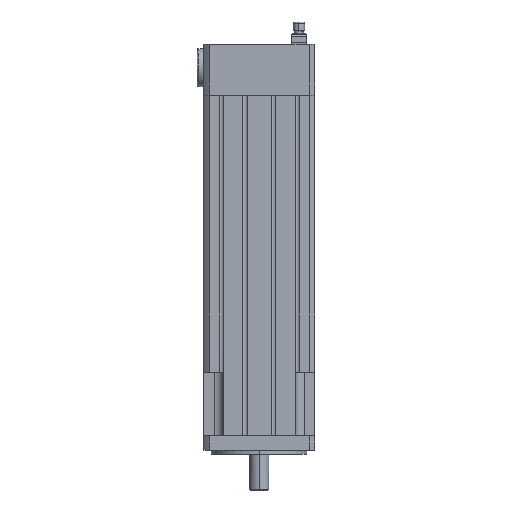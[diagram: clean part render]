
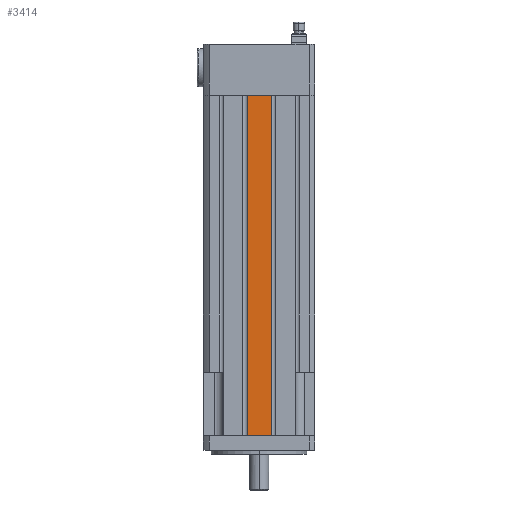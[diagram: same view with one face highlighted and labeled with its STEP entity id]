
A CAD part, left-side view. The second image highlights one B-rep face of the part: STEP entity #3414.
In plain terms, the highlighted planar face has unit normal (-1, 0, 0).
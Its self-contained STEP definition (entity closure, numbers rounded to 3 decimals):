
#652 = ORIENTED_EDGE ( 'NONE', *, *, #8682, .T. ) ;
#731 = VERTEX_POINT ( 'NONE', #12495 ) ;
#1012 = VERTEX_POINT ( 'NONE', #10043 ) ;
#1488 = DIRECTION ( 'NONE',  ( 0., 1., 0. ) ) ;
#1558 = CARTESIAN_POINT ( 'NONE',  ( -35., 7.547, 214. ) ) ;
#1682 = PLANE ( 'NONE',  #13375 ) ;
#1724 = DIRECTION ( 'NONE',  ( 0., -1., 0. ) ) ;
#1793 = LINE ( 'NONE', #10034, #7757 ) ;
#2017 = DIRECTION ( 'NONE',  ( 0., 0., -1. ) ) ;
#2330 = EDGE_CURVE ( 'NONE', #12482, #4863, #2908, .T. ) ;
#2619 = EDGE_CURVE ( 'NONE', #1012, #4863, #3823, .T. ) ;
#2654 = FACE_OUTER_BOUND ( 'NONE', #5404, .T. ) ;
#2908 = LINE ( 'NONE', #8104, #8492 ) ;
#3414 = ADVANCED_FACE ( 'NONE', ( #2654 ), #1682, .F. ) ;
#3595 = DIRECTION ( 'NONE',  ( 0., 0., -1. ) ) ;
#3823 = LINE ( 'NONE', #6728, #12664 ) ;
#4548 = DIRECTION ( 'NONE',  ( 1., 0., 0. ) ) ;
#4863 = VERTEX_POINT ( 'NONE', #10640 ) ;
#5215 = VECTOR ( 'NONE', #3595, 1000. ) ;
#5404 = EDGE_LOOP ( 'NONE', ( #7571, #6412, #6343, #652 ) ) ;
#6343 = ORIENTED_EDGE ( 'NONE', *, *, #7062, .F. ) ;
#6412 = ORIENTED_EDGE ( 'NONE', *, *, #2330, .F. ) ;
#6532 = CARTESIAN_POINT ( 'NONE',  ( -35., -7.547, 214. ) ) ;
#6728 = CARTESIAN_POINT ( 'NONE',  ( -35., -7.547, 0. ) ) ;
#7062 = EDGE_CURVE ( 'NONE', #731, #12482, #1793, .T. ) ;
#7505 = LINE ( 'NONE', #1558, #5215 ) ;
#7571 = ORIENTED_EDGE ( 'NONE', *, *, #2619, .T. ) ;
#7757 = VECTOR ( 'NONE', #12787, 1000. ) ;
#8104 = CARTESIAN_POINT ( 'NONE',  ( -35., -7.547, 214. ) ) ;
#8492 = VECTOR ( 'NONE', #2017, 1000. ) ;
#8682 = EDGE_CURVE ( 'NONE', #731, #1012, #7505, .T. ) ;
#9797 = CARTESIAN_POINT ( 'NONE',  ( -35., -7.547, 214. ) ) ;
#10034 = CARTESIAN_POINT ( 'NONE',  ( -35., -7.547, 214. ) ) ;
#10043 = CARTESIAN_POINT ( 'NONE',  ( -35., 7.547, 0. ) ) ;
#10640 = CARTESIAN_POINT ( 'NONE',  ( -35., -7.547, 0. ) ) ;
#12482 = VERTEX_POINT ( 'NONE', #6532 ) ;
#12495 = CARTESIAN_POINT ( 'NONE',  ( -35., 7.547, 214. ) ) ;
#12664 = VECTOR ( 'NONE', #1724, 1000. ) ;
#12787 = DIRECTION ( 'NONE',  ( 0., -1., 0. ) ) ;
#13375 = AXIS2_PLACEMENT_3D ( 'NONE', #9797, #4548, #1488 ) ;
